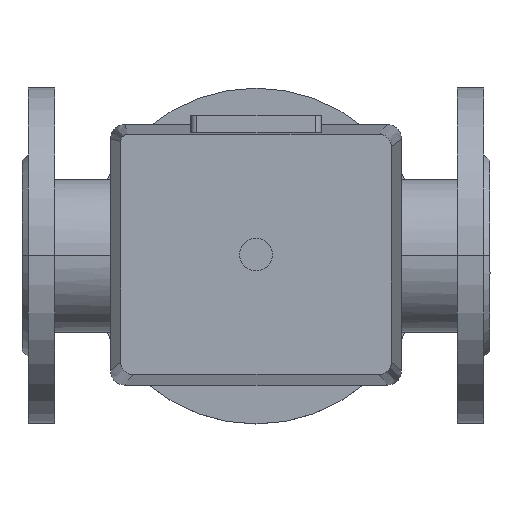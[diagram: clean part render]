
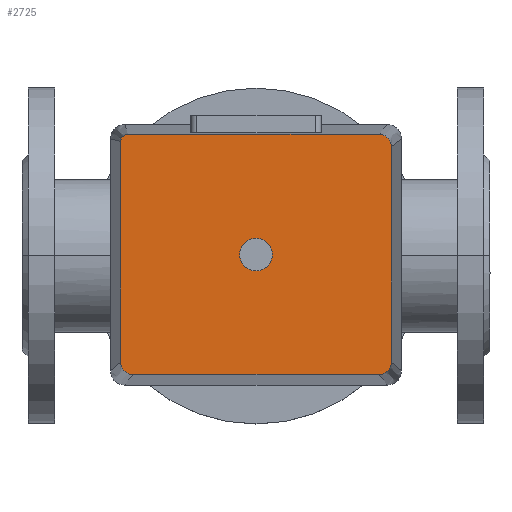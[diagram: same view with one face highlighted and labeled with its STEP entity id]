
A CAD part, top view. The second image highlights one B-rep face of the part: STEP entity #2725.
In plain terms, the highlighted planar face has unit normal (0, 0, 1).
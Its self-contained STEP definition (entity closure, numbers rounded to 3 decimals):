
#258=LINE('',#4557,#446);
#259=LINE('',#4561,#447);
#260=LINE('',#4565,#448);
#261=LINE('',#4569,#449);
#446=VECTOR('',#3693,304.8);
#447=VECTOR('',#3696,304.8);
#448=VECTOR('',#3699,304.8);
#449=VECTOR('',#3702,304.8);
#710=FACE_OUTER_BOUND('',#890,.T.);
#890=EDGE_LOOP('',(#2162,#2163,#2164,#2165,#2166,#2167,#2168,#2169));
#1056=CIRCLE('',#3013,6.);
#1057=CIRCLE('',#3014,6.);
#1058=CIRCLE('',#3015,3.5);
#1059=CIRCLE('',#3016,6.);
#1271=VERTEX_POINT('',#4555);
#1272=VERTEX_POINT('',#4556);
#1273=VERTEX_POINT('',#4558);
#1274=VERTEX_POINT('',#4560);
#1275=VERTEX_POINT('',#4562);
#1276=VERTEX_POINT('',#4564);
#1277=VERTEX_POINT('',#4566);
#1278=VERTEX_POINT('',#4568);
#1583=EDGE_CURVE('',#1271,#1272,#258,.T.);
#1584=EDGE_CURVE('',#1272,#1273,#1056,.T.);
#1585=EDGE_CURVE('',#1273,#1274,#259,.T.);
#1586=EDGE_CURVE('',#1274,#1275,#1057,.T.);
#1587=EDGE_CURVE('',#1275,#1276,#260,.T.);
#1588=EDGE_CURVE('',#1276,#1277,#1058,.T.);
#1589=EDGE_CURVE('',#1277,#1278,#261,.T.);
#1590=EDGE_CURVE('',#1278,#1271,#1059,.T.);
#2162=ORIENTED_EDGE('',*,*,#1583,.T.);
#2163=ORIENTED_EDGE('',*,*,#1584,.T.);
#2164=ORIENTED_EDGE('',*,*,#1585,.T.);
#2165=ORIENTED_EDGE('',*,*,#1586,.T.);
#2166=ORIENTED_EDGE('',*,*,#1587,.T.);
#2167=ORIENTED_EDGE('',*,*,#1588,.T.);
#2168=ORIENTED_EDGE('',*,*,#1589,.T.);
#2169=ORIENTED_EDGE('',*,*,#1590,.T.);
#2467=PLANE('',#3012);
#2725=ADVANCED_FACE('',(#710),#2467,.T.);
#3012=AXIS2_PLACEMENT_3D('',#4554,#3691,#3692);
#3013=AXIS2_PLACEMENT_3D('',#4559,#3694,#3695);
#3014=AXIS2_PLACEMENT_3D('',#4563,#3697,#3698);
#3015=AXIS2_PLACEMENT_3D('',#4567,#3700,#3701);
#3016=AXIS2_PLACEMENT_3D('',#4570,#3703,#3704);
#3691=DIRECTION('center_axis',(0.,0.,1.));
#3692=DIRECTION('ref_axis',(0.,-1.,0.));
#3693=DIRECTION('',(0.,-1.,0.));
#3694=DIRECTION('center_axis',(0.,0.,1.));
#3695=DIRECTION('ref_axis',(1.,0.,0.));
#3696=DIRECTION('',(1.,0.,0.));
#3697=DIRECTION('center_axis',(0.,0.,1.));
#3698=DIRECTION('ref_axis',(1.,0.,0.));
#3699=DIRECTION('',(0.,1.,0.));
#3700=DIRECTION('center_axis',(0.,0.,1.));
#3701=DIRECTION('ref_axis',(1.,0.,0.));
#3702=DIRECTION('',(-1.,0.,0.));
#3703=DIRECTION('center_axis',(0.,0.,1.));
#3704=DIRECTION('ref_axis',(1.,0.,0.));
#4554=CARTESIAN_POINT('Origin',(0.313,0.313,294.));
#4555=CARTESIAN_POINT('',(-59.,60.5,294.));
#4556=CARTESIAN_POINT('',(-59.,-60.5,294.));
#4557=CARTESIAN_POINT('',(-59.,-60.5,294.));
#4558=CARTESIAN_POINT('',(-53.,-66.5,294.));
#4559=CARTESIAN_POINT('Origin',(-53.,-60.5,294.));
#4560=CARTESIAN_POINT('',(53.,-66.5,294.));
#4561=CARTESIAN_POINT('',(53.,-66.5,294.));
#4562=CARTESIAN_POINT('',(59.,-60.5,294.));
#4563=CARTESIAN_POINT('Origin',(53.,-60.5,294.));
#4564=CARTESIAN_POINT('',(59.,63.,294.));
#4565=CARTESIAN_POINT('',(59.,63.,294.));
#4566=CARTESIAN_POINT('',(55.5,66.5,294.));
#4567=CARTESIAN_POINT('Origin',(55.5,63.,294.));
#4568=CARTESIAN_POINT('',(-53.,66.5,294.));
#4569=CARTESIAN_POINT('',(-53.,66.5,294.));
#4570=CARTESIAN_POINT('Origin',(-53.,60.5,294.));
